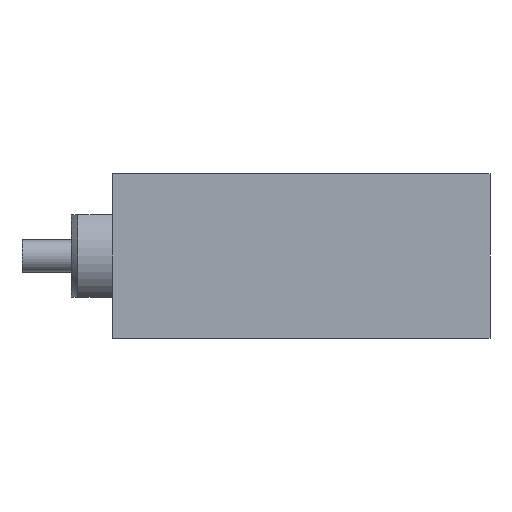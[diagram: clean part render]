
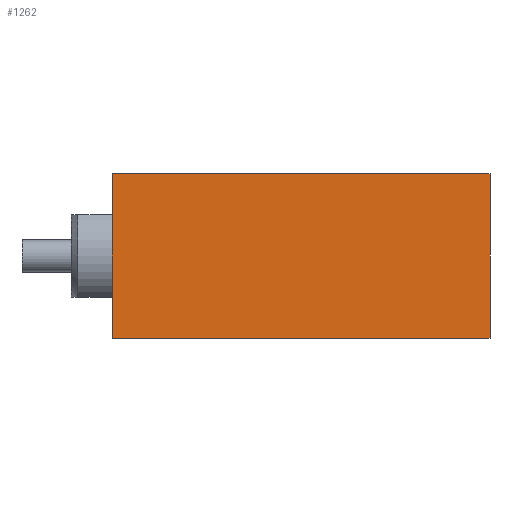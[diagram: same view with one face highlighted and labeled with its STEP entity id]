
A CAD part, front view. The second image highlights one B-rep face of the part: STEP entity #1262.
In plain terms, the highlighted planar face has unit normal (0, -1, 0).
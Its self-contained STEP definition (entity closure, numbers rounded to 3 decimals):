
#18 = DIRECTION ( 'NONE',  ( 0., 0., 1. ) ) ;
#136 = CARTESIAN_POINT ( 'NONE',  ( 23., -7.5, -5. ) ) ;
#327 = LINE ( 'NONE', #136, #657 ) ;
#331 = ORIENTED_EDGE ( 'NONE', *, *, #674, .F. ) ;
#349 = CARTESIAN_POINT ( 'NONE',  ( 23., -7.5, -5. ) ) ;
#431 = EDGE_CURVE ( 'NONE', #1579, #1468, #983, .T. ) ;
#433 = CARTESIAN_POINT ( 'NONE',  ( 23., -7.5, -5. ) ) ;
#543 = EDGE_CURVE ( 'NONE', #1997, #1468, #855, .T. ) ;
#601 = DIRECTION ( 'NONE',  ( 0., 0., 1. ) ) ;
#620 = EDGE_LOOP ( 'NONE', ( #1168, #331, #2420, #823 ) ) ;
#657 = VECTOR ( 'NONE', #2260, 1000. ) ;
#674 = EDGE_CURVE ( 'NONE', #850, #1997, #327, .T. ) ;
#689 = VECTOR ( 'NONE', #18, 1000. ) ;
#794 = DIRECTION ( 'NONE',  ( 1., 0., 0. ) ) ;
#823 = ORIENTED_EDGE ( 'NONE', *, *, #431, .T. ) ;
#828 = DIRECTION ( 'NONE',  ( -1., 0., 0. ) ) ;
#850 = VERTEX_POINT ( 'NONE', #349 ) ;
#854 = CARTESIAN_POINT ( 'NONE',  ( 0., -7.5, 5. ) ) ;
#855 = LINE ( 'NONE', #1784, #2095 ) ;
#921 = AXIS2_PLACEMENT_3D ( 'NONE', #433, #2167, #794 ) ;
#983 = LINE ( 'NONE', #2195, #1306 ) ;
#1117 = CARTESIAN_POINT ( 'NONE',  ( 0., -7.5, -5. ) ) ;
#1168 = ORIENTED_EDGE ( 'NONE', *, *, #543, .F. ) ;
#1194 = PLANE ( 'NONE',  #921 ) ;
#1227 = LINE ( 'NONE', #1778, #689 ) ;
#1262 = ADVANCED_FACE ( 'NONE', ( #2180 ), #1194, .T. ) ;
#1306 = VECTOR ( 'NONE', #828, 1000. ) ;
#1468 = VERTEX_POINT ( 'NONE', #854 ) ;
#1579 = VERTEX_POINT ( 'NONE', #1725 ) ;
#1725 = CARTESIAN_POINT ( 'NONE',  ( 23., -7.5, 5. ) ) ;
#1778 = CARTESIAN_POINT ( 'NONE',  ( 23., -7.5, -5. ) ) ;
#1784 = CARTESIAN_POINT ( 'NONE',  ( 0., -7.5, -5. ) ) ;
#1997 = VERTEX_POINT ( 'NONE', #1117 ) ;
#2095 = VECTOR ( 'NONE', #601, 1000. ) ;
#2167 = DIRECTION ( 'NONE',  ( 0., -1., 0. ) ) ;
#2180 = FACE_OUTER_BOUND ( 'NONE', #620, .T. ) ;
#2195 = CARTESIAN_POINT ( 'NONE',  ( 23., -7.5, 5. ) ) ;
#2260 = DIRECTION ( 'NONE',  ( -1., 0., 0. ) ) ;
#2420 = ORIENTED_EDGE ( 'NONE', *, *, #2531, .T. ) ;
#2531 = EDGE_CURVE ( 'NONE', #850, #1579, #1227, .T. ) ;
